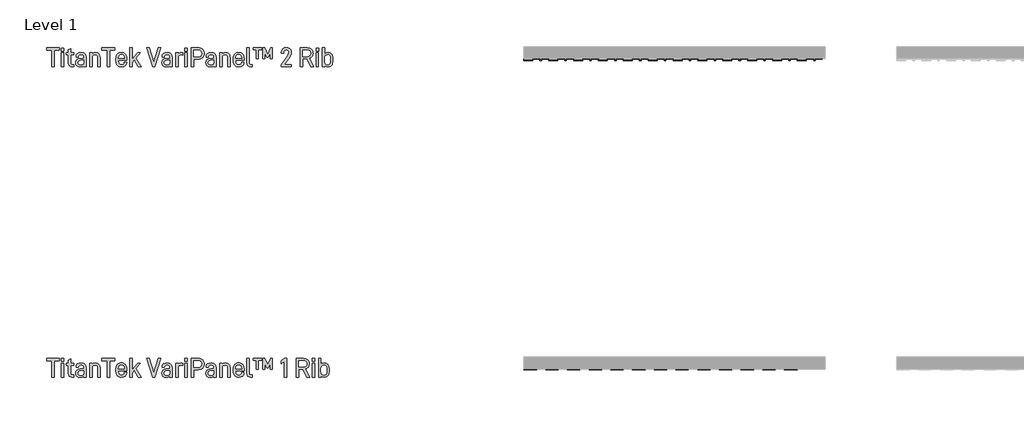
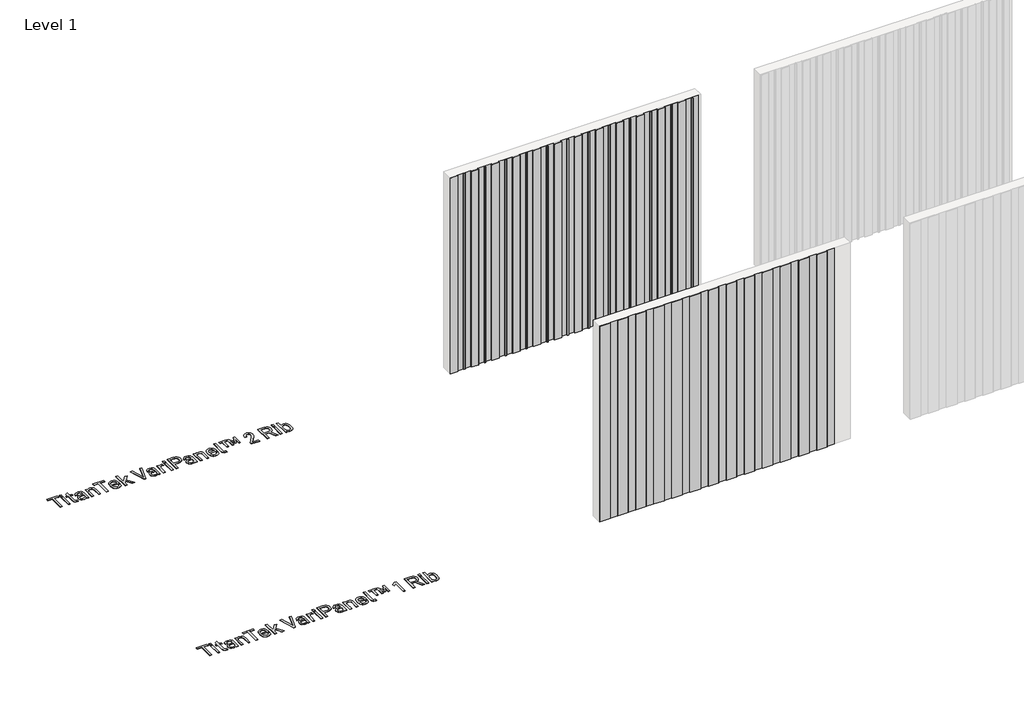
# One storey, part 14 of 33: 4 proxies.
"""IFC4 building model written with IfcOpenShell, lengths in millimetres."""

from ifc_helpers import new_model, si_unit, origin, origin_with_axes, place, context, project, spatial, polyline, outline, extrude, transform, mapped, element, save
from components import aluminum_slate_gray_a4144698, aluminum_slate_gray_9a56e31e

model = new_model("IFC4")

# Units and contexts
model_context = context("Model", 3, world=origin())
ifc_project = project(units=[si_unit("LENGTHUNIT", "METRE", prefix="MILLI")], contexts=[model_context])

# Site, building, storey
site = spatial("IfcSite", under=ifc_project)
building = spatial("IfcBuilding", under=site)
storey = spatial("IfcBuildingStorey", under=building, Name="Level 1", Elevation=0.0)

# Proxies
placement = place(None, origin())
element("IfcBuildingElementProxy", 1, Name="600mm Arial 2", ObjectType="600mm Arial 2", at=placement, inside=storey, context=model_context, shape_type="SweptSolid", body=[
    extrude(outline(polyline([(-9914.9924556, 22220.4128343), (-9914.9924556, 21952.9873502), (-9954.4439015, 21952.9873502), (-9954.4439015, 22220.4128343), (-10038.8787304, 22220.4128343), (-10038.8787304, 22257.3166776), (-9830.5576267, 22257.3166776), (-9830.5576267, 22220.4128343), (-9914.9924556, 22220.4128343)])), origin_with_axes(), (0.0, 0.0, 1.0), 5.0),
    extrude(outline(polyline([(-9763.1553408, 22253.0221475), (-9763.1553408, 22205.8551051), (-9802.6067867, 22205.8551051), (-9802.6067867, 22253.0221475), (-9763.1553408, 22253.0221475)])), origin_with_axes(), (0.0, 0.0, 1.0), 5.0),
    extrude(outline(polyline([(-9764.0288046, 22178.8505176), (-9764.0288046, 21952.9873502), (-9801.733323, 21952.9873502), (-9801.733323, 22178.8505176), (-9764.0288046, 22178.8505176)])), origin_with_axes(), (0.0, 0.0, 1.0), 5.0),
    extrude(outline(polyline([(-9648.294858, 22012.601251), (-9646.8208879, 22001.5191797), (-9642.3989777, 21993.6034145), (-9635.0291273, 21988.8539554), (-9624.7113368, 21987.2708023), (-9603.2386864, 21987.2708023), (-9603.2386864, 21952.9873502), (-9629.3698101, 21952.9873502), (-9653.1535001, 21956.9543314), (-9671.3688587, 21968.855275), (-9682.6692959, 21987.3981825), (-9686.4361083, 22011.2910554), (-9686.4361083, 22147.1146681), (-9720.2828285, 22147.1146681), (-9720.2828285, 22178.8505176), (-9686.4361083, 22178.8505176), (-9686.4361083, 22226.8910237), (-9648.294858, 22244.8698192), (-9648.294858, 22178.8505176), (-9599.3808881, 22178.8505176), (-9599.3808881, 22147.1146681), (-9648.294858, 22147.1146681), (-9648.294858, 22012.601251)])), origin_with_axes(), (0.0, 0.0, 1.0), 5.0),
    extrude(outline(polyline([(-9422.8684225, 22162.1091291), (-9413.2830677, 22151.3409589), (-9406.4363858, 22138.2526505), (-9400.9590402, 22105.1156196), (-9400.9590402, 21952.9873502), (-9438.2996154, 21952.9873502), (-9438.2996154, 21969.2920069), (-9456.7151427, 21956.8451485), (-9473.7476858, 21952.0410978), (-9493.9829293, 21950.4397476), (-9526.0281305, 21954.7160806), (-9550.1029751, 21967.5450794), (-9565.2248162, 21989.3270816), (-9570.2654299, 22018.5699199), (-9565.1338304, 22046.2114081), (-9549.7390318, 22067.4111012), (-9525.063681, 22080.6222403), (-9493.1094655, 22085.0259534), (-9438.7363472, 22085.0259534), (-9438.7363472, 22105.5523515), (-9441.6296959, 22124.441005), (-9450.3097419, 22138.1616647), (-9464.2305704, 22146.1866129), (-9483.7197302, 22148.8615956), (-9502.2262434, 22146.6051476), (-9515.819523, 22139.8358036), (-9524.1720201, 22129.4816187), (-9526.9561857, 22115.4516073), (-9526.9561857, 22109.8468816), (-9563.8600291, 22109.8468816), (-9563.8600291, 22116.2522824), (-9558.4008807, 22143.2932642), (-9542.0234354, 22164.2927885), (-9516.8203668, 22177.4493362), (-9484.1564621, 22181.8348521), (-9448.6719974, 22176.9034213), (-9434.5600987, 22170.7391329), (-9422.8684225, 22162.1091291)]), holes=[polyline([(-9450.6736851, 21994.5496669), (-9441.7206817, 22009.4531421), (-9438.7363472, 22031.0167784), (-9438.7363472, 22054.9642428), (-9488.8149354, 22054.9642428), (-9507.9538, 22052.7168933), (-9521.6244175, 22045.974845), (-9529.826788, 22034.7380979), (-9532.5609115, 22019.0066518), (-9529.8540837, 22003.0522906), (-9521.7336004, 21991.6563182), (-9508.1994616, 21984.8187348), (-9489.2516673, 21982.5395404), (-9466.104878, 21985.542072), (-9450.6736851, 21994.5496669)])]), origin_with_axes(), (0.0, 0.0, 1.0), 5.0),
    extrude(outline(polyline([(-9306.6977441, 22178.8505176), (-9306.6977441, 22160.4349903), (-9288.2822167, 22173.6825238), (-9271.1222935, 22179.4692211), (-9252.2518372, 22181.3981202), (-9219.9154813, 22175.9389718), (-9206.7907787, 22169.1150363), (-9195.6950595, 22159.5615265), (-9187.0650557, 22147.9790333), (-9180.9007673, 22134.1946835), (-9175.9693365, 22100.0204144), (-9175.9693365, 21952.9873502), (-9213.673855, 21952.9873502), (-9213.673855, 22095.7258843), (-9216.6763866, 22118.1083928), (-9225.6839815, 22133.8671346), (-9240.3781893, 22143.4752358), (-9259.567096, 22146.6779363), (-9278.7378056, 22143.4752358), (-9293.3774219, 22133.8671346), (-9303.0401146, 22117.453295), (-9306.2610122, 22095.7258843), (-9306.2610122, 21952.9873502), (-9343.9655306, 21952.9873502), (-9343.9655306, 22178.8505176), (-9306.6977441, 22178.8505176)])), origin_with_axes(), (0.0, 0.0, 1.0), 5.0),
    extrude(outline(polyline([(-9025.2240514, 22220.4128343), (-9025.2240514, 21952.9873502), (-9064.6754974, 21952.9873502), (-9064.6754974, 22220.4128343), (-9149.1103263, 22220.4128343), (-9149.1103263, 22257.3166776), (-8940.7892225, 22257.3166776), (-8940.7892225, 22220.4128343), (-9025.2240514, 22220.4128343)])), origin_with_axes(), (0.0, 0.0, 1.0), 5.0),
    extrude(outline(polyline([(-8884.5235994, 22047.2486463), (-8881.1025331, 22017.8329349), (-8870.8393341, 21998.8805913), (-8854.3527058, 21988.5900965), (-8832.2613519, 21985.1599316), (-8812.990558, 21987.7257314), (-8798.8513635, 21995.4231306), (-8790.1713175, 22007.1966941), (-8787.2779689, 22022.86445), (-8787.2779689, 22028.3963871), (-8750.3741256, 22028.3963871), (-8750.3741256, 22021.9909863), (-8756.0516399, 21992.8391337), (-8763.1485329, 21980.528754), (-8773.084183, 21969.7287387), (-8799.7976159, 21955.2619954), (-8834.3722226, 21950.4397476), (-8853.3222916, 21951.9387388), (-8870.2843206, 21956.4357123), (-8885.2583098, 21963.9306682), (-8898.2442591, 21974.4236064), (-8908.7371973, 21988.0237099), (-8916.2321532, 22004.8401617), (-8920.7291267, 22024.8729617), (-8922.2281179, 22048.1221101), (-8922.2281179, 22085.8266285), (-8920.7314014, 22108.5321367), (-8916.2412518, 22128.1714231), (-8908.7576691, 22144.7444879), (-8898.2806535, 22158.2513309), (-8885.4971476, 22168.5691214), (-8870.7301511, 22175.9389718), (-8853.979664, 22180.360882), (-8835.2456864, 22181.8348521), (-8816.8438069, 22180.360882), (-8800.2161506, 22175.9389718), (-8785.3627176, 22168.5691214), (-8772.2835079, 22158.2513309), (-8761.9657174, 22144.9082623), (-8754.595867, 22128.389789), (-8750.1739568, 22108.6959111), (-8748.6999867, 22085.8266285), (-8748.6999867, 22055.8377065), (-8884.5235994, 22055.8377065), (-8884.5235994, 22047.2486463)]), holes=[polyline([(-8871.2760659, 22133.4304027), (-8881.2117161, 22115.30603), (-8884.5235994, 22086.7000923), (-8786.4045051, 22086.2633604), (-8786.4045051, 22089.6844267), (-8789.6254027, 22116.9255774), (-8799.2880954, 22134.3038665), (-8814.9012599, 22143.5844188), (-8835.2456864, 22146.6779363), (-8855.60831, 22143.3660529), (-8871.2760659, 22133.4304027)])]), origin_with_axes(), (0.0, 0.0, 1.0), 5.0),
    extrude(outline(polyline([(-8663.391694, 22020.3168474), (-8663.391694, 21952.9873502), (-8701.0962125, 21952.9873502), (-8701.0962125, 22257.3166776), (-8663.391694, 22257.3166776), (-8663.391694, 22070.8321675), (-8575.0990669, 22178.8505176), (-8528.3687564, 22178.8505176), (-8602.5403863, 22091.8680861), (-8517.6688255, 21952.9873502), (-8563.5256722, 21952.9873502), (-8627.7980463, 22062.6798392), (-8663.391694, 22020.3168474)])), origin_with_axes(), (0.0, 0.0, 1.0), 5.0),
    extrude(outline(polyline([(-8240.5624516, 22257.3166776), (-8199.0001349, 22257.3166776), (-8298.4294248, 21952.9873502), (-8330.1652743, 21952.9873502), (-8429.1578324, 22257.3166776), (-8387.5955157, 22257.3166776), (-8313.8606177, 22022.86445), (-8240.5624516, 22257.3166776)])), origin_with_axes(), (0.0, 0.0, 1.0), 5.0),
    extrude(outline(polyline([(-8039.3018464, 22162.1091291), (-8029.7164916, 22151.3409589), (-8022.8698097, 22138.2526505), (-8017.3924641, 22105.1156196), (-8017.3924641, 21952.9873502), (-8054.7330393, 21952.9873502), (-8054.7330393, 21969.2920069), (-8073.1485666, 21956.8451485), (-8090.1811097, 21952.0410978), (-8110.4163532, 21950.4397476), (-8142.4615544, 21954.7160806), (-8166.536399, 21967.5450794), (-8181.6582401, 21989.3270816), (-8186.6988538, 22018.5699199), (-8181.5672543, 22046.2114081), (-8166.1724557, 22067.4111012), (-8141.4971049, 22080.6222403), (-8109.5428894, 22085.0259534), (-8055.1697712, 22085.0259534), (-8055.1697712, 22105.5523515), (-8058.0631198, 22124.441005), (-8066.7431658, 22138.1616647), (-8080.6639943, 22146.1866129), (-8100.1531542, 22148.8615956), (-8118.6596673, 22146.6051476), (-8132.2529469, 22139.8358036), (-8140.605444, 22129.4816187), (-8143.3896097, 22115.4516073), (-8143.3896097, 22109.8468816), (-8180.293453, 22109.8468816), (-8180.293453, 22116.2522824), (-8174.8343046, 22143.2932642), (-8158.4568593, 22164.2927885), (-8133.2537908, 22177.4493362), (-8100.589886, 22181.8348521), (-8065.1054213, 22176.9034213), (-8050.9935226, 22170.7391329), (-8039.3018464, 22162.1091291)]), holes=[polyline([(-8067.107109, 21994.5496669), (-8058.1541056, 22009.4531421), (-8055.1697712, 22031.0167784), (-8055.1697712, 22054.9642428), (-8105.2483594, 22054.9642428), (-8124.3872239, 22052.7168933), (-8138.0578414, 22045.974845), (-8146.2602119, 22034.7380979), (-8148.9943354, 22019.0066518), (-8146.2875076, 22003.0522906), (-8138.1670243, 21991.6563182), (-8124.6328855, 21984.8187348), (-8105.6850912, 21982.5395404), (-8082.5383019, 21985.542072), (-8067.107109, 21994.5496669)])]), origin_with_axes(), (0.0, 0.0, 1.0), 5.0),
    extrude(outline(polyline([(-7870.4321886, 22181.8348521), (-7850.2697337, 22179.7239814), (-7850.2697337, 22140.7092673), (-7876.8375894, 22146.313993), (-7895.1712295, 22142.7746451), (-7909.8472402, 22132.1566015), (-7919.4826371, 22115.7518604), (-7922.6944361, 22094.8524206), (-7922.6944361, 21952.9873502), (-7960.3989546, 21952.9873502), (-7960.3989546, 22178.8505176), (-7923.131168, 22178.8505176), (-7923.131168, 22159.1247947), (-7905.5891044, 22173.3185806), (-7889.4846166, 22179.7057842), (-7870.4321886, 22181.8348521)])), origin_with_axes(), (0.0, 0.0, 1.0), 5.0),
    extrude(outline(polyline([(-7773.9872331, 22253.0221475), (-7773.9872331, 22205.8551051), (-7813.438679, 22205.8551051), (-7813.438679, 22253.0221475), (-7773.9872331, 22253.0221475)])), origin_with_axes(), (0.0, 0.0, 1.0), 5.0),
    extrude(outline(polyline([(-7774.8606969, 22178.8505176), (-7774.8606969, 21952.9873502), (-7812.5652153, 21952.9873502), (-7812.5652153, 22178.8505176), (-7774.8606969, 22178.8505176)])), origin_with_axes(), (0.0, 0.0, 1.0), 5.0),
    extrude(outline(polyline([(-7529.6357497, 22233.2964245), (-7518.2033831, 22219.8396237), (-7510.0374069, 22203.926206), (-7505.1378212, 22185.5561716), (-7503.504626, 22164.7295204), (-7505.1651169, 22145.044741), (-7510.1465899, 22127.5527196), (-7518.4490448, 22112.2534562), (-7530.0724816, 22099.1469507), (-7544.1297888, 22088.6380899), (-7560.6073184, 22081.1317609), (-7579.5050706, 22076.6279634), (-7600.8230452, 22075.1266976), (-7671.5008201, 22075.1266976), (-7671.5008201, 21952.9873502), (-7711.3889979, 21952.9873502), (-7711.3889979, 22257.3166776), (-7600.8230452, 22257.3166776), (-7579.6415493, 22255.8154118), (-7560.7165014, 22251.3116143), (-7544.0479016, 22243.8052853), (-7529.6357497, 22233.2964245)]), holes=[polyline([(-7558.3872648, 22125.2780744), (-7547.141419, 22141.5827311), (-7543.3928038, 22164.7295204), (-7547.250602, 22189.3502798), (-7558.8239966, 22206.7285689), (-7577.8946218, 22216.9917679), (-7603.3706478, 22220.4128343), (-7671.5008201, 22220.4128343), (-7671.5008201, 22112.0305409), (-7603.3706478, 22112.0305409), (-7577.130341, 22115.3424243), (-7558.3872648, 22125.2780744)])]), origin_with_axes(), (0.0, 0.0, 1.0), 5.0),
    extrude(outline(polyline([(-7331.2139018, 22162.1091291), (-7321.628547, 22151.3409589), (-7314.781865, 22138.2526505), (-7309.3045194, 22105.1156196), (-7309.3045194, 21952.9873502), (-7346.6450946, 21952.9873502), (-7346.6450946, 21969.2920069), (-7365.060622, 21956.8451485), (-7382.093165, 21952.0410978), (-7402.3284085, 21950.4397476), (-7434.3736098, 21954.7160806), (-7458.4484543, 21967.5450794), (-7473.5702954, 21989.3270816), (-7478.6109091, 22018.5699199), (-7473.4793096, 22046.2114081), (-7458.0845111, 22067.4111012), (-7433.4091602, 22080.6222403), (-7401.4549448, 22085.0259534), (-7347.0818265, 22085.0259534), (-7347.0818265, 22105.5523515), (-7349.9751752, 22124.441005), (-7358.6552212, 22138.1616647), (-7372.5760496, 22146.1866129), (-7392.0652095, 22148.8615956), (-7410.5717226, 22146.6051476), (-7424.1650022, 22139.8358036), (-7432.5174993, 22129.4816187), (-7435.301665, 22115.4516073), (-7435.301665, 22109.8468816), (-7472.2055083, 22109.8468816), (-7472.2055083, 22116.2522824), (-7466.7463599, 22143.2932642), (-7450.3689146, 22164.2927885), (-7425.1658461, 22177.4493362), (-7392.5019414, 22181.8348521), (-7357.0174766, 22176.9034213), (-7342.905578, 22170.7391329), (-7331.2139018, 22162.1091291)]), holes=[polyline([(-7359.0191644, 21994.5496669), (-7350.066161, 22009.4531421), (-7347.0818265, 22031.0167784), (-7347.0818265, 22054.9642428), (-7397.1604147, 22054.9642428), (-7416.2992792, 22052.7168933), (-7429.9698967, 22045.974845), (-7438.1722672, 22034.7380979), (-7440.9063907, 22019.0066518), (-7438.199563, 22003.0522906), (-7430.0790797, 21991.6563182), (-7416.5449409, 21984.8187348), (-7397.5971466, 21982.5395404), (-7374.4503573, 21985.542072), (-7359.0191644, 21994.5496669)])]), origin_with_axes(), (0.0, 0.0, 1.0), 5.0),
    extrude(outline(polyline([(-7215.0432233, 22178.8505176), (-7215.0432233, 22160.4349903), (-7196.627696, 22173.6825238), (-7179.4677728, 22179.4692211), (-7160.5973164, 22181.3981202), (-7128.2609606, 22175.9389718), (-7115.1362579, 22169.1150363), (-7104.0405387, 22159.5615265), (-7095.410535, 22147.9790333), (-7089.2462465, 22134.1946835), (-7084.3148158, 22100.0204144), (-7084.3148158, 21952.9873502), (-7122.0193342, 21952.9873502), (-7122.0193342, 22095.7258843), (-7125.0218659, 22118.1083928), (-7134.0294607, 22133.8671346), (-7148.7236686, 22143.4752358), (-7167.9125753, 22146.6779363), (-7187.0832848, 22143.4752358), (-7201.7229012, 22133.8671346), (-7211.3855939, 22117.453295), (-7214.6064915, 22095.7258843), (-7214.6064915, 21952.9873502), (-7252.3110099, 21952.9873502), (-7252.3110099, 22178.8505176), (-7215.0432233, 22178.8505176)])), origin_with_axes(), (0.0, 0.0, 1.0), 5.0),
    extrude(outline(polyline([(-6997.8419048, 22047.2486463), (-6994.4208384, 22017.8329349), (-6984.1576394, 21998.8805913), (-6967.6710112, 21988.5900965), (-6945.5796572, 21985.1599316), (-6926.3088633, 21987.7257314), (-6912.1696689, 21995.4231306), (-6903.4896229, 22007.1966941), (-6900.5962742, 22022.86445), (-6900.5962742, 22028.3963871), (-6863.6924309, 22028.3963871), (-6863.6924309, 22021.9909863), (-6869.3699452, 21992.8391337), (-6876.4668382, 21980.528754), (-6886.4024883, 21969.7287387), (-6913.1159213, 21955.2619954), (-6947.6905279, 21950.4397476), (-6966.6405969, 21951.9387388), (-6983.602626, 21956.4357123), (-6998.5766152, 21963.9306682), (-7011.5625645, 21974.4236064), (-7022.0555027, 21988.0237099), (-7029.5504585, 22004.8401617), (-7034.047432, 22024.8729617), (-7035.5464232, 22048.1221101), (-7035.5464232, 22085.8266285), (-7034.0497067, 22108.5321367), (-7029.5595571, 22128.1714231), (-7022.0759745, 22144.7444879), (-7011.5989588, 22158.2513309), (-6998.8154529, 22168.5691214), (-6984.0484564, 22175.9389718), (-6967.2979694, 22180.360882), (-6948.5639917, 22181.8348521), (-6930.1621122, 22180.360882), (-6913.534456, 22175.9389718), (-6898.681023, 22168.5691214), (-6885.6018132, 22158.2513309), (-6875.2840227, 22144.9082623), (-6867.9141723, 22128.389789), (-6863.4922621, 22108.6959111), (-6862.018292, 22085.8266285), (-6862.018292, 22055.8377065), (-6997.8419048, 22055.8377065), (-6997.8419048, 22047.2486463)]), holes=[polyline([(-6984.5943713, 22133.4304027), (-6994.5300214, 22115.30603), (-6997.8419048, 22086.7000923), (-6899.7228105, 22086.2633604), (-6899.7228105, 22089.6844267), (-6902.943708, 22116.9255774), (-6912.6064007, 22134.3038665), (-6928.2195652, 22143.5844188), (-6948.5639917, 22146.6779363), (-6968.9266153, 22143.3660529), (-6984.5943713, 22133.4304027)])]), origin_with_axes(), (0.0, 0.0, 1.0), 5.0),
    extrude(outline(polyline([(-6799.4200568, 21968.855275), (-6810.6659025, 21988.362632), (-6814.4145178, 22014.2753899), (-6814.4145178, 22257.3166776), (-6776.7099994, 22257.3166776), (-6776.7099994, 22016.0223174), (-6775.3270151, 22002.6110094), (-6771.1780623, 21994.112935), (-6764.1903523, 21989.6364333), (-6753.5632101, 21988.1442661), (-6731.7266164, 21988.1442661), (-6731.7266164, 21952.9873502), (-6756.5475445, 21952.9873502), (-6781.4230642, 21956.9543314), (-6799.4200568, 21968.855275)])), origin_with_axes(), (0.0, 0.0, 1.0), 5.0),
    extrude(outline(polyline([(-6712.9471458, 22226.01756), (-6712.9471458, 22257.3166776), (-6580.9813313, 22257.3166776), (-6580.9813313, 22226.01756), (-6629.8225125, 22226.01756), (-6629.8225125, 22079.8579596), (-6663.6692327, 22079.8579596), (-6663.6692327, 22226.01756), (-6712.9471458, 22226.01756)])), origin_with_axes(), (0.0, 0.0, 1.0), 5.0),
    extrude(outline(polyline([(-6435.2584627, 22257.3166776), (-6404.8328089, 22257.3166776), (-6404.8328089, 22079.8579596), (-6437.3693334, 22079.8579596), (-6437.3693334, 22178.4137857), (-6470.4153786, 22104.6788877), (-6493.9988997, 22104.6788877), (-6527.4088881, 22178.4137857), (-6527.4088881, 22079.8579596), (-6559.9454127, 22079.8579596), (-6559.9454127, 22257.3166776), (-6529.5197588, 22257.3166776), (-6481.9887732, 22149.7350594), (-6435.2584627, 22257.3166776)])), origin_with_axes(), (0.0, 0.0, 1.0), 5.0),
    extrude(outline(polyline([(-6266.0976503, 22170.2614574), (-6266.0976503, 22216.1183042), (-6212.5252071, 22257.3166776), (-6175.6941524, 22257.3166776), (-6175.6941524, 21952.9873502), (-6215.1455983, 21952.9873502), (-6215.1455983, 22208.4027077), (-6266.0976503, 22170.2614574)])), origin_with_axes(), (0.0, 0.0, 1.0), 5.0),
    extrude(outline(polyline([(-5980.4750048, 22082.842294), (-5980.4750048, 21952.9873502), (-6020.3631826, 21952.9873502), (-6020.3631826, 22257.3166776), (-5906.3761636, 22257.3166776), (-5867.8891672, 22251.6391632), (-5851.934806, 22244.5422703), (-5838.1732026, 22234.6066202), (-5827.1229764, 22221.8777058), (-5819.2299576, 22206.8377519), (-5814.4941464, 22189.4867585), (-5812.9155426, 22169.8247256), (-5817.3010585, 22139.8540007), (-5830.4576062, 22115.0148754), (-5849.5464285, 22097.9641352), (-5874.2035822, 22087.1368241), (-5803.5258073, 21952.9873502), (-5849.3826541, 21952.9873502), (-5916.2026308, 22082.842294), (-5980.4750048, 22082.842294)]), holes=[polyline([(-5908.9237662, 22118.4359417), (-5884.5941614, 22121.7478251), (-5867.3614495, 22131.6834753), (-5856.4431527, 22147.5695972), (-5852.8037204, 22169.4607823), (-5856.3339697, 22191.6158263), (-5866.9247177, 22207.5656383), (-5884.4849784, 22217.2010353), (-5908.9237662, 22220.4128343), (-5980.4750048, 22220.4128343), (-5980.4750048, 22118.4359417), (-5908.9237662, 22118.4359417)])]), origin_with_axes(), (0.0, 0.0, 1.0), 5.0),
    extrude(outline(polyline([(-5724.2589722, 22253.0221475), (-5724.2589722, 22205.8551051), (-5763.7104182, 22205.8551051), (-5763.7104182, 22253.0221475), (-5724.2589722, 22253.0221475)])), origin_with_axes(), (0.0, 0.0, 1.0), 5.0),
    extrude(outline(polyline([(-5725.132436, 22178.8505176), (-5725.132436, 21952.9873502), (-5762.8369544, 21952.9873502), (-5762.8369544, 22178.8505176), (-5725.132436, 22178.8505176)])), origin_with_axes(), (0.0, 0.0, 1.0), 5.0),
    extrude(outline(polyline([(-5516.3746003, 22158.6880628), (-5506.6300204, 22145.9455005), (-5499.6696062, 22129.9911392), (-5495.4933576, 22110.824979), (-5494.1012748, 22088.4470198), (-5494.1012748, 22043.82758), (-5499.5604232, 22002.2834605), (-5506.3843587, 21986.3290992), (-5515.9378684, 21973.586537), (-5527.6067982, 21963.4598166), (-5540.7769938, 21956.226445), (-5571.6211824, 21950.4397476), (-5602.811117, 21955.8988961), (-5615.4308484, 21962.7228316), (-5626.0670893, 21972.2763413), (-5626.0670893, 21952.9873502), (-5663.7716077, 21952.9873502), (-5663.7716077, 22257.3166776), (-5626.0670893, 22257.3166776), (-5626.0670893, 22158.2513309), (-5609.3984894, 22172.8818487), (-5592.7844811, 22179.5966012), (-5573.8048417, 22181.8348521), (-5541.6504575, 22176.0481548), (-5528.152713, 22168.8147831), (-5516.3746003, 22158.6880628)]), holes=[polyline([(-5531.8057932, 22045.5745075), (-5531.8057932, 22086.7000923), (-5534.6718461, 22112.940399), (-5543.2700049, 22131.6834753), (-5557.6002695, 22142.929321), (-5577.6626399, 22146.6779363), (-5598.4437983, 22142.6199693), (-5613.6202309, 22130.4460683), (-5622.9553747, 22110.0652475), (-5626.0670893, 22084.1524897), (-5626.0670893, 22046.0112394), (-5622.8552903, 22021.2540013), (-5613.2198933, 22001.8649258), (-5597.4702501, 21989.3361801), (-5575.9157124, 21985.1599316), (-5556.6176228, 21988.9358426), (-5542.833273, 22000.2635756), (-5534.5626631, 22019.1431305), (-5531.8057932, 22045.5745075)])]), origin_with_axes(), (0.0, 0.0, 1.0), 5.0),
])
element("IfcBuildingElementProxy", 2, Name="600mm Arial 2", ObjectType="600mm Arial 2", at=placement, inside=storey, context=model_context, shape_type="SweptSolid", body=[
    extrude(outline(polyline([(-9914.9924556, 27220.4128343), (-9914.9924556, 26952.9873502), (-9954.4439015, 26952.9873502), (-9954.4439015, 27220.4128343), (-10038.8787304, 27220.4128343), (-10038.8787304, 27257.3166776), (-9830.5576267, 27257.3166776), (-9830.5576267, 27220.4128343), (-9914.9924556, 27220.4128343)])), origin_with_axes(), (0.0, 0.0, 1.0), 5.0),
    extrude(outline(polyline([(-9763.1553408, 27253.0221475), (-9763.1553408, 27205.8551051), (-9802.6067867, 27205.8551051), (-9802.6067867, 27253.0221475), (-9763.1553408, 27253.0221475)])), origin_with_axes(), (0.0, 0.0, 1.0), 5.0),
    extrude(outline(polyline([(-9764.0288046, 27178.8505176), (-9764.0288046, 26952.9873502), (-9801.733323, 26952.9873502), (-9801.733323, 27178.8505176), (-9764.0288046, 27178.8505176)])), origin_with_axes(), (0.0, 0.0, 1.0), 5.0),
    extrude(outline(polyline([(-9648.294858, 27012.601251), (-9646.8208879, 27001.5191797), (-9642.3989777, 26993.6034145), (-9635.0291273, 26988.8539554), (-9624.7113368, 26987.2708023), (-9603.2386864, 26987.2708023), (-9603.2386864, 26952.9873502), (-9629.3698101, 26952.9873502), (-9653.1535001, 26956.9543314), (-9671.3688587, 26968.855275), (-9682.6692959, 26987.3981825), (-9686.4361083, 27011.2910554), (-9686.4361083, 27147.1146681), (-9720.2828285, 27147.1146681), (-9720.2828285, 27178.8505176), (-9686.4361083, 27178.8505176), (-9686.4361083, 27226.8910237), (-9648.294858, 27244.8698192), (-9648.294858, 27178.8505176), (-9599.3808881, 27178.8505176), (-9599.3808881, 27147.1146681), (-9648.294858, 27147.1146681), (-9648.294858, 27012.601251)])), origin_with_axes(), (0.0, 0.0, 1.0), 5.0),
    extrude(outline(polyline([(-9422.8684225, 27162.1091291), (-9413.2830677, 27151.3409589), (-9406.4363858, 27138.2526505), (-9400.9590402, 27105.1156196), (-9400.9590402, 26952.9873502), (-9438.2996154, 26952.9873502), (-9438.2996154, 26969.2920069), (-9456.7151427, 26956.8451485), (-9473.7476858, 26952.0410978), (-9493.9829293, 26950.4397476), (-9526.0281305, 26954.7160806), (-9550.1029751, 26967.5450794), (-9565.2248162, 26989.3270816), (-9570.2654299, 27018.5699199), (-9565.1338304, 27046.2114081), (-9549.7390318, 27067.4111012), (-9525.063681, 27080.6222403), (-9493.1094655, 27085.0259534), (-9438.7363472, 27085.0259534), (-9438.7363472, 27105.5523515), (-9441.6296959, 27124.441005), (-9450.3097419, 27138.1616647), (-9464.2305704, 27146.1866129), (-9483.7197302, 27148.8615956), (-9502.2262434, 27146.6051476), (-9515.819523, 27139.8358036), (-9524.1720201, 27129.4816187), (-9526.9561857, 27115.4516073), (-9526.9561857, 27109.8468816), (-9563.8600291, 27109.8468816), (-9563.8600291, 27116.2522824), (-9558.4008807, 27143.2932642), (-9542.0234354, 27164.2927885), (-9516.8203668, 27177.4493362), (-9484.1564621, 27181.8348521), (-9448.6719974, 27176.9034213), (-9434.5600987, 27170.7391329), (-9422.8684225, 27162.1091291)]), holes=[polyline([(-9450.6736851, 26994.5496669), (-9441.7206817, 27009.4531421), (-9438.7363472, 27031.0167784), (-9438.7363472, 27054.9642428), (-9488.8149354, 27054.9642428), (-9507.9538, 27052.7168933), (-9521.6244175, 27045.974845), (-9529.826788, 27034.7380979), (-9532.5609115, 27019.0066518), (-9529.8540837, 27003.0522906), (-9521.7336004, 26991.6563182), (-9508.1994616, 26984.8187348), (-9489.2516673, 26982.5395404), (-9466.104878, 26985.542072), (-9450.6736851, 26994.5496669)])]), origin_with_axes(), (0.0, 0.0, 1.0), 5.0),
    extrude(outline(polyline([(-9306.6977441, 27178.8505176), (-9306.6977441, 27160.4349903), (-9288.2822167, 27173.6825238), (-9271.1222935, 27179.4692211), (-9252.2518372, 27181.3981202), (-9219.9154813, 27175.9389718), (-9206.7907787, 27169.1150363), (-9195.6950595, 27159.5615265), (-9187.0650557, 27147.9790333), (-9180.9007673, 27134.1946835), (-9175.9693365, 27100.0204144), (-9175.9693365, 26952.9873502), (-9213.673855, 26952.9873502), (-9213.673855, 27095.7258843), (-9216.6763866, 27118.1083928), (-9225.6839815, 27133.8671346), (-9240.3781893, 27143.4752358), (-9259.567096, 27146.6779363), (-9278.7378056, 27143.4752358), (-9293.3774219, 27133.8671346), (-9303.0401146, 27117.453295), (-9306.2610122, 27095.7258843), (-9306.2610122, 26952.9873502), (-9343.9655306, 26952.9873502), (-9343.9655306, 27178.8505176), (-9306.6977441, 27178.8505176)])), origin_with_axes(), (0.0, 0.0, 1.0), 5.0),
    extrude(outline(polyline([(-9025.2240514, 27220.4128343), (-9025.2240514, 26952.9873502), (-9064.6754974, 26952.9873502), (-9064.6754974, 27220.4128343), (-9149.1103263, 27220.4128343), (-9149.1103263, 27257.3166776), (-8940.7892225, 27257.3166776), (-8940.7892225, 27220.4128343), (-9025.2240514, 27220.4128343)])), origin_with_axes(), (0.0, 0.0, 1.0), 5.0),
    extrude(outline(polyline([(-8884.5235994, 27047.2486463), (-8881.1025331, 27017.8329349), (-8870.8393341, 26998.8805913), (-8854.3527058, 26988.5900965), (-8832.2613519, 26985.1599316), (-8812.990558, 26987.7257314), (-8798.8513635, 26995.4231306), (-8790.1713175, 27007.1966941), (-8787.2779689, 27022.86445), (-8787.2779689, 27028.3963871), (-8750.3741256, 27028.3963871), (-8750.3741256, 27021.9909863), (-8756.0516399, 26992.8391337), (-8763.1485329, 26980.528754), (-8773.084183, 26969.7287387), (-8799.7976159, 26955.2619954), (-8834.3722226, 26950.4397476), (-8853.3222916, 26951.9387388), (-8870.2843206, 26956.4357123), (-8885.2583098, 26963.9306682), (-8898.2442591, 26974.4236064), (-8908.7371973, 26988.0237099), (-8916.2321532, 27004.8401617), (-8920.7291267, 27024.8729617), (-8922.2281179, 27048.1221101), (-8922.2281179, 27085.8266285), (-8920.7314014, 27108.5321367), (-8916.2412518, 27128.1714231), (-8908.7576691, 27144.7444879), (-8898.2806535, 27158.2513309), (-8885.4971476, 27168.5691214), (-8870.7301511, 27175.9389718), (-8853.979664, 27180.360882), (-8835.2456864, 27181.8348521), (-8816.8438069, 27180.360882), (-8800.2161506, 27175.9389718), (-8785.3627176, 27168.5691214), (-8772.2835079, 27158.2513309), (-8761.9657174, 27144.9082623), (-8754.595867, 27128.389789), (-8750.1739568, 27108.6959111), (-8748.6999867, 27085.8266285), (-8748.6999867, 27055.8377065), (-8884.5235994, 27055.8377065), (-8884.5235994, 27047.2486463)]), holes=[polyline([(-8871.2760659, 27133.4304027), (-8881.2117161, 27115.30603), (-8884.5235994, 27086.7000923), (-8786.4045051, 27086.2633604), (-8786.4045051, 27089.6844267), (-8789.6254027, 27116.9255774), (-8799.2880954, 27134.3038665), (-8814.9012599, 27143.5844188), (-8835.2456864, 27146.6779363), (-8855.60831, 27143.3660529), (-8871.2760659, 27133.4304027)])]), origin_with_axes(), (0.0, 0.0, 1.0), 5.0),
    extrude(outline(polyline([(-8663.391694, 27020.3168474), (-8663.391694, 26952.9873502), (-8701.0962125, 26952.9873502), (-8701.0962125, 27257.3166776), (-8663.391694, 27257.3166776), (-8663.391694, 27070.8321675), (-8575.0990669, 27178.8505176), (-8528.3687564, 27178.8505176), (-8602.5403863, 27091.8680861), (-8517.6688255, 26952.9873502), (-8563.5256722, 26952.9873502), (-8627.7980463, 27062.6798392), (-8663.391694, 27020.3168474)])), origin_with_axes(), (0.0, 0.0, 1.0), 5.0),
    extrude(outline(polyline([(-8240.5624516, 27257.3166776), (-8199.0001349, 27257.3166776), (-8298.4294248, 26952.9873502), (-8330.1652743, 26952.9873502), (-8429.1578324, 27257.3166776), (-8387.5955157, 27257.3166776), (-8313.8606177, 27022.86445), (-8240.5624516, 27257.3166776)])), origin_with_axes(), (0.0, 0.0, 1.0), 5.0),
    extrude(outline(polyline([(-8039.3018464, 27162.1091291), (-8029.7164916, 27151.3409589), (-8022.8698097, 27138.2526505), (-8017.3924641, 27105.1156196), (-8017.3924641, 26952.9873502), (-8054.7330393, 26952.9873502), (-8054.7330393, 26969.2920069), (-8073.1485666, 26956.8451485), (-8090.1811097, 26952.0410978), (-8110.4163532, 26950.4397476), (-8142.4615544, 26954.7160806), (-8166.536399, 26967.5450794), (-8181.6582401, 26989.3270816), (-8186.6988538, 27018.5699199), (-8181.5672543, 27046.2114081), (-8166.1724557, 27067.4111012), (-8141.4971049, 27080.6222403), (-8109.5428894, 27085.0259534), (-8055.1697712, 27085.0259534), (-8055.1697712, 27105.5523515), (-8058.0631198, 27124.441005), (-8066.7431658, 27138.1616647), (-8080.6639943, 27146.1866129), (-8100.1531542, 27148.8615956), (-8118.6596673, 27146.6051476), (-8132.2529469, 27139.8358036), (-8140.605444, 27129.4816187), (-8143.3896097, 27115.4516073), (-8143.3896097, 27109.8468816), (-8180.293453, 27109.8468816), (-8180.293453, 27116.2522824), (-8174.8343046, 27143.2932642), (-8158.4568593, 27164.2927885), (-8133.2537908, 27177.4493362), (-8100.589886, 27181.8348521), (-8065.1054213, 27176.9034213), (-8050.9935226, 27170.7391329), (-8039.3018464, 27162.1091291)]), holes=[polyline([(-8067.107109, 26994.5496669), (-8058.1541056, 27009.4531421), (-8055.1697712, 27031.0167784), (-8055.1697712, 27054.9642428), (-8105.2483594, 27054.9642428), (-8124.3872239, 27052.7168933), (-8138.0578414, 27045.974845), (-8146.2602119, 27034.7380979), (-8148.9943354, 27019.0066518), (-8146.2875076, 27003.0522906), (-8138.1670243, 26991.6563182), (-8124.6328855, 26984.8187348), (-8105.6850912, 26982.5395404), (-8082.5383019, 26985.542072), (-8067.107109, 26994.5496669)])]), origin_with_axes(), (0.0, 0.0, 1.0), 5.0),
    extrude(outline(polyline([(-7870.4321886, 27181.8348521), (-7850.2697337, 27179.7239814), (-7850.2697337, 27140.7092673), (-7876.8375894, 27146.313993), (-7895.1712295, 27142.7746451), (-7909.8472402, 27132.1566015), (-7919.4826371, 27115.7518604), (-7922.6944361, 27094.8524206), (-7922.6944361, 26952.9873502), (-7960.3989546, 26952.9873502), (-7960.3989546, 27178.8505176), (-7923.131168, 27178.8505176), (-7923.131168, 27159.1247947), (-7905.5891044, 27173.3185806), (-7889.4846166, 27179.7057842), (-7870.4321886, 27181.8348521)])), origin_with_axes(), (0.0, 0.0, 1.0), 5.0),
    extrude(outline(polyline([(-7773.9872331, 27253.0221475), (-7773.9872331, 27205.8551051), (-7813.438679, 27205.8551051), (-7813.438679, 27253.0221475), (-7773.9872331, 27253.0221475)])), origin_with_axes(), (0.0, 0.0, 1.0), 5.0),
    extrude(outline(polyline([(-7774.8606969, 27178.8505176), (-7774.8606969, 26952.9873502), (-7812.5652153, 26952.9873502), (-7812.5652153, 27178.8505176), (-7774.8606969, 27178.8505176)])), origin_with_axes(), (0.0, 0.0, 1.0), 5.0),
    extrude(outline(polyline([(-7529.6357497, 27233.2964245), (-7518.2033831, 27219.8396237), (-7510.0374069, 27203.926206), (-7505.1378212, 27185.5561716), (-7503.504626, 27164.7295204), (-7505.1651169, 27145.044741), (-7510.1465899, 27127.5527196), (-7518.4490448, 27112.2534562), (-7530.0724816, 27099.1469507), (-7544.1297888, 27088.6380899), (-7560.6073184, 27081.1317609), (-7579.5050706, 27076.6279634), (-7600.8230452, 27075.1266976), (-7671.5008201, 27075.1266976), (-7671.5008201, 26952.9873502), (-7711.3889979, 26952.9873502), (-7711.3889979, 27257.3166776), (-7600.8230452, 27257.3166776), (-7579.6415493, 27255.8154118), (-7560.7165014, 27251.3116143), (-7544.0479016, 27243.8052853), (-7529.6357497, 27233.2964245)]), holes=[polyline([(-7558.3872648, 27125.2780744), (-7547.141419, 27141.5827311), (-7543.3928038, 27164.7295204), (-7547.250602, 27189.3502798), (-7558.8239966, 27206.7285689), (-7577.8946218, 27216.9917679), (-7603.3706478, 27220.4128343), (-7671.5008201, 27220.4128343), (-7671.5008201, 27112.0305409), (-7603.3706478, 27112.0305409), (-7577.130341, 27115.3424243), (-7558.3872648, 27125.2780744)])]), origin_with_axes(), (0.0, 0.0, 1.0), 5.0),
    extrude(outline(polyline([(-7331.2139018, 27162.1091291), (-7321.628547, 27151.3409589), (-7314.781865, 27138.2526505), (-7309.3045194, 27105.1156196), (-7309.3045194, 26952.9873502), (-7346.6450946, 26952.9873502), (-7346.6450946, 26969.2920069), (-7365.060622, 26956.8451485), (-7382.093165, 26952.0410978), (-7402.3284085, 26950.4397476), (-7434.3736098, 26954.7160806), (-7458.4484543, 26967.5450794), (-7473.5702954, 26989.3270816), (-7478.6109091, 27018.5699199), (-7473.4793096, 27046.2114081), (-7458.0845111, 27067.4111012), (-7433.4091602, 27080.6222403), (-7401.4549448, 27085.0259534), (-7347.0818265, 27085.0259534), (-7347.0818265, 27105.5523515), (-7349.9751752, 27124.441005), (-7358.6552212, 27138.1616647), (-7372.5760496, 27146.1866129), (-7392.0652095, 27148.8615956), (-7410.5717226, 27146.6051476), (-7424.1650022, 27139.8358036), (-7432.5174993, 27129.4816187), (-7435.301665, 27115.4516073), (-7435.301665, 27109.8468816), (-7472.2055083, 27109.8468816), (-7472.2055083, 27116.2522824), (-7466.7463599, 27143.2932642), (-7450.3689146, 27164.2927885), (-7425.1658461, 27177.4493362), (-7392.5019414, 27181.8348521), (-7357.0174766, 27176.9034213), (-7342.905578, 27170.7391329), (-7331.2139018, 27162.1091291)]), holes=[polyline([(-7359.0191644, 26994.5496669), (-7350.066161, 27009.4531421), (-7347.0818265, 27031.0167784), (-7347.0818265, 27054.9642428), (-7397.1604147, 27054.9642428), (-7416.2992792, 27052.7168933), (-7429.9698967, 27045.974845), (-7438.1722672, 27034.7380979), (-7440.9063907, 27019.0066518), (-7438.199563, 27003.0522906), (-7430.0790797, 26991.6563182), (-7416.5449409, 26984.8187348), (-7397.5971466, 26982.5395404), (-7374.4503573, 26985.542072), (-7359.0191644, 26994.5496669)])]), origin_with_axes(), (0.0, 0.0, 1.0), 5.0),
    extrude(outline(polyline([(-7215.0432233, 27178.8505176), (-7215.0432233, 27160.4349903), (-7196.627696, 27173.6825238), (-7179.4677728, 27179.4692211), (-7160.5973164, 27181.3981202), (-7128.2609606, 27175.9389718), (-7115.1362579, 27169.1150363), (-7104.0405387, 27159.5615265), (-7095.410535, 27147.9790333), (-7089.2462465, 27134.1946835), (-7084.3148158, 27100.0204144), (-7084.3148158, 26952.9873502), (-7122.0193342, 26952.9873502), (-7122.0193342, 27095.7258843), (-7125.0218659, 27118.1083928), (-7134.0294607, 27133.8671346), (-7148.7236686, 27143.4752358), (-7167.9125753, 27146.6779363), (-7187.0832848, 27143.4752358), (-7201.7229012, 27133.8671346), (-7211.3855939, 27117.453295), (-7214.6064915, 27095.7258843), (-7214.6064915, 26952.9873502), (-7252.3110099, 26952.9873502), (-7252.3110099, 27178.8505176), (-7215.0432233, 27178.8505176)])), origin_with_axes(), (0.0, 0.0, 1.0), 5.0),
    extrude(outline(polyline([(-6997.8419048, 27047.2486463), (-6994.4208384, 27017.8329349), (-6984.1576394, 26998.8805913), (-6967.6710112, 26988.5900965), (-6945.5796572, 26985.1599316), (-6926.3088633, 26987.7257314), (-6912.1696689, 26995.4231306), (-6903.4896229, 27007.1966941), (-6900.5962742, 27022.86445), (-6900.5962742, 27028.3963871), (-6863.6924309, 27028.3963871), (-6863.6924309, 27021.9909863), (-6869.3699452, 26992.8391337), (-6876.4668382, 26980.528754), (-6886.4024883, 26969.7287387), (-6913.1159213, 26955.2619954), (-6947.6905279, 26950.4397476), (-6966.6405969, 26951.9387388), (-6983.602626, 26956.4357123), (-6998.5766152, 26963.9306682), (-7011.5625645, 26974.4236064), (-7022.0555027, 26988.0237099), (-7029.5504585, 27004.8401617), (-7034.047432, 27024.8729617), (-7035.5464232, 27048.1221101), (-7035.5464232, 27085.8266285), (-7034.0497067, 27108.5321367), (-7029.5595571, 27128.1714231), (-7022.0759745, 27144.7444879), (-7011.5989588, 27158.2513309), (-6998.8154529, 27168.5691214), (-6984.0484564, 27175.9389718), (-6967.2979694, 27180.360882), (-6948.5639917, 27181.8348521), (-6930.1621122, 27180.360882), (-6913.534456, 27175.9389718), (-6898.681023, 27168.5691214), (-6885.6018132, 27158.2513309), (-6875.2840227, 27144.9082623), (-6867.9141723, 27128.389789), (-6863.4922621, 27108.6959111), (-6862.018292, 27085.8266285), (-6862.018292, 27055.8377065), (-6997.8419048, 27055.8377065), (-6997.8419048, 27047.2486463)]), holes=[polyline([(-6984.5943713, 27133.4304027), (-6994.5300214, 27115.30603), (-6997.8419048, 27086.7000923), (-6899.7228105, 27086.2633604), (-6899.7228105, 27089.6844267), (-6902.943708, 27116.9255774), (-6912.6064007, 27134.3038665), (-6928.2195652, 27143.5844188), (-6948.5639917, 27146.6779363), (-6968.9266153, 27143.3660529), (-6984.5943713, 27133.4304027)])]), origin_with_axes(), (0.0, 0.0, 1.0), 5.0),
    extrude(outline(polyline([(-6799.4200568, 26968.855275), (-6810.6659025, 26988.362632), (-6814.4145178, 27014.2753899), (-6814.4145178, 27257.3166776), (-6776.7099994, 27257.3166776), (-6776.7099994, 27016.0223174), (-6775.3270151, 27002.6110094), (-6771.1780623, 26994.112935), (-6764.1903523, 26989.6364333), (-6753.5632101, 26988.1442661), (-6731.7266164, 26988.1442661), (-6731.7266164, 26952.9873502), (-6756.5475445, 26952.9873502), (-6781.4230642, 26956.9543314), (-6799.4200568, 26968.855275)])), origin_with_axes(), (0.0, 0.0, 1.0), 5.0),
    extrude(outline(polyline([(-6712.9471458, 27226.01756), (-6712.9471458, 27257.3166776), (-6580.9813313, 27257.3166776), (-6580.9813313, 27226.01756), (-6629.8225125, 27226.01756), (-6629.8225125, 27079.8579596), (-6663.6692327, 27079.8579596), (-6663.6692327, 27226.01756), (-6712.9471458, 27226.01756)])), origin_with_axes(), (0.0, 0.0, 1.0), 5.0),
    extrude(outline(polyline([(-6435.2584627, 27257.3166776), (-6404.8328089, 27257.3166776), (-6404.8328089, 27079.8579596), (-6437.3693334, 27079.8579596), (-6437.3693334, 27178.4137857), (-6470.4153786, 27104.6788877), (-6493.9988997, 27104.6788877), (-6527.4088881, 27178.4137857), (-6527.4088881, 27079.8579596), (-6559.9454127, 27079.8579596), (-6559.9454127, 27257.3166776), (-6529.5197588, 27257.3166776), (-6481.9887732, 27149.7350594), (-6435.2584627, 27257.3166776)])), origin_with_axes(), (0.0, 0.0, 1.0), 5.0),
    extrude(outline(polyline([(-6162.009887, 27127.4617338), (-6148.471199, 27153.2471115), (-6143.9583029, 27176.7396469), (-6143.9583029, 27183.1450477), (-6146.6514828, 27200.9418716), (-6154.7310225, 27214.0074335), (-6167.5782184, 27222.3599305), (-6183.8464807, 27225.1440962), (-6200.223926, 27222.4691135), (-6212.5252071, 27214.4441653), (-6220.2771979, 27200.6143227), (-6222.8611948, 27181.3981202), (-6222.8611948, 27169.4607823), (-6262.2398521, 27169.4607823), (-6262.2398521, 27183.1450477), (-6256.8898866, 27214.7535171), (-6240.8399903, 27240.1385572), (-6215.2365842, 27256.1884536), (-6182.973017, 27261.5384191), (-6160.7906772, 27258.9726193), (-6141.4107003, 27251.27522), (-6125.4517898, 27239.3924736), (-6113.532649, 27223.3971687), (-6106.1627987, 27204.9998386), (-6103.7061819, 27184.0185115), (-6103.7061819, 27176.7396469), (-6105.4167151, 27158.0875565), (-6110.5483146, 27140.7092673), (-6130.2740375, 27105.9890833), (-6211.2878001, 26989.4544617), (-6103.7061819, 26989.4544617), (-6103.7061819, 26952.9873502), (-6262.2398521, 26952.9873502), (-6262.2398521, 26983.849736), (-6162.009887, 27127.4617338)])), origin_with_axes(), (0.0, 0.0, 1.0), 5.0),
    extrude(outline(polyline([(-5919.9148517, 27082.842294), (-5919.9148517, 26952.9873502), (-5959.8030295, 26952.9873502), (-5959.8030295, 27257.3166776), (-5845.8160104, 27257.3166776), (-5807.3290141, 27251.6391632), (-5791.3746528, 27244.5422703), (-5777.6130495, 27234.6066202), (-5766.5628232, 27221.8777058), (-5758.6698045, 27206.8377519), (-5753.9339932, 27189.4867585), (-5752.3553894, 27169.8247256), (-5756.7409053, 27139.8540007), (-5769.897453, 27115.0148754), (-5788.9862754, 27097.9641352), (-5813.6434291, 27087.1368241), (-5742.9656542, 26952.9873502), (-5788.8225009, 26952.9873502), (-5855.6424776, 27082.842294), (-5919.9148517, 27082.842294)]), holes=[polyline([(-5848.363613, 27118.4359417), (-5824.0340082, 27121.7478251), (-5806.8012964, 27131.6834753), (-5795.8829995, 27147.5695972), (-5792.2435673, 27169.4607823), (-5795.7738166, 27191.6158263), (-5806.3645645, 27207.5656383), (-5823.9248253, 27217.2010353), (-5848.363613, 27220.4128343), (-5919.9148517, 27220.4128343), (-5919.9148517, 27118.4359417), (-5848.363613, 27118.4359417)])]), origin_with_axes(), (0.0, 0.0, 1.0), 5.0),
    extrude(outline(polyline([(-5663.6988191, 27253.0221475), (-5663.6988191, 27205.8551051), (-5703.150265, 27205.8551051), (-5703.150265, 27253.0221475), (-5663.6988191, 27253.0221475)])), origin_with_axes(), (0.0, 0.0, 1.0), 5.0),
    extrude(outline(polyline([(-5664.5722828, 27178.8505176), (-5664.5722828, 26952.9873502), (-5702.2768013, 26952.9873502), (-5702.2768013, 27178.8505176), (-5664.5722828, 27178.8505176)])), origin_with_axes(), (0.0, 0.0, 1.0), 5.0),
    extrude(outline(polyline([(-5455.8144472, 27158.6880628), (-5446.0698672, 27145.9455005), (-5439.109453, 27129.9911392), (-5434.9332044, 27110.824979), (-5433.5411216, 27088.4470198), (-5433.5411216, 27043.82758), (-5439.00027, 27002.2834605), (-5445.8242055, 26986.3290992), (-5455.3777153, 26973.586537), (-5467.046645, 26963.4598166), (-5480.2168406, 26956.226445), (-5511.0610292, 26950.4397476), (-5542.2509638, 26955.8988961), (-5554.8706953, 26962.7228316), (-5565.5069361, 26972.2763413), (-5565.5069361, 26952.9873502), (-5603.2114546, 26952.9873502), (-5603.2114546, 27257.3166776), (-5565.5069361, 27257.3166776), (-5565.5069361, 27158.2513309), (-5548.8383363, 27172.8818487), (-5532.2243279, 27179.5966012), (-5513.2446886, 27181.8348521), (-5481.0903044, 27176.0481548), (-5467.5925599, 27168.8147831), (-5455.8144472, 27158.6880628)]), holes=[polyline([(-5471.24564, 27045.5745075), (-5471.24564, 27086.7000923), (-5474.111693, 27112.940399), (-5482.7098517, 27131.6834753), (-5497.0401163, 27142.929321), (-5517.1024868, 27146.6779363), (-5537.8836451, 27142.6199693), (-5553.0600777, 27130.4460683), (-5562.3952215, 27110.0652475), (-5565.5069361, 27084.1524897), (-5565.5069361, 27046.0112394), (-5562.2951371, 27021.2540013), (-5552.6597402, 27001.8649258), (-5536.910097, 26989.3361801), (-5515.3555593, 26985.1599316), (-5496.0574696, 26988.9358426), (-5482.2731198, 27000.2635756), (-5474.00251, 27019.1431305), (-5471.24564, 27045.5745075)])]), origin_with_axes(), (0.0, 0.0, 1.0), 5.0),
])
aluminum_slate_gray_shape = aluminum_slate_gray_a4144698(model_context)
element("IfcBuildingElementProxy", 3, Name="TitanTek VariPanel™ 1 Rib : Aluminum Slate Gray", ObjectType="TitanTek VariPanel™ 1 Rib : Aluminum Slate Gray", at=placement, inside=storey, context=model_context, shape_type="MappedRepresentation", body=[
    mapped(aluminum_slate_gray_shape, transform((-2360.5897817, 22078.6095025, 0.0), x_axis=(1.0, 0.0, 0.0), y_axis=(0.0, 1.0, 0.0), z_axis=(0.0, 0.0, 1.0))),
])
aluminum_slate_gray_2_shape = aluminum_slate_gray_9a56e31e(model_context)
element("IfcBuildingElementProxy", 4, Name="TitanTek VariPanel™ 2 Rib : Aluminum Slate Gray", ObjectType="TitanTek VariPanel™ 2 Rib : Aluminum Slate Gray", at=placement, inside=storey, context=model_context, shape_type="MappedRepresentation", body=[
    mapped(aluminum_slate_gray_2_shape, transform((-2360.5897817, 27078.6095025, 0.0), x_axis=(1.0, 0.0, 0.0), y_axis=(0.0, 1.0, 0.0), z_axis=(0.0, 0.0, 1.0))),
])

save(model, "model.ifc")
